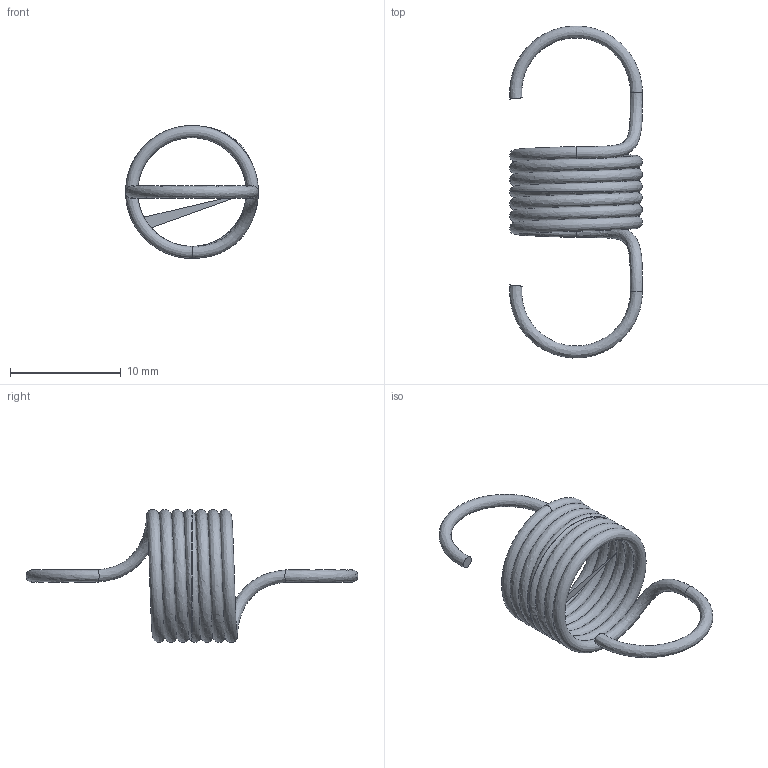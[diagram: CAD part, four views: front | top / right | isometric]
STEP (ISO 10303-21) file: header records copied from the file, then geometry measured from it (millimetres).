
FILE_DESCRIPTION(/* description */ ('35.8 | 1 15 | 0'),/* implementation_level */ '2;1');
FILE_NAME(/* name */ 'T11040.step',/* time_stamp */ '2026-10-05T09:52:20+02:00',/* author */ ('impex-ready.pl'),/* organization */ ('T11040'),/* preprocessor_version */ 'ST-DEVELOPER v20.1',/* originating_system */ 'Autodesk Inventor 2026',/* authorisation */ 'stal sprezynowa');
FILE_SCHEMA (('AUTOMOTIVE_DESIGN { 1 0 10303 214 3 1 1 }'));
Length unit declared in the file: millimetre
Products named in the file (1): T11040
Bounding box: 12 x 29.98 x 12 mm (x, y, z)
Volume: 265.8 mm3; surface area: 968.6 mm2
Topology: 1 solids, 1 shells, 10 faces, 32 edges, 20 vertices
Faces by surface type: bspline 6, plane 4
Entity records: 2174 total; most frequent: CARTESIAN_POINT 1886, ORIENTED_EDGE 64, DIRECTION 34, EDGE_CURVE 32, B_SPLINE_CURVE_WITH_KNOTS 20, VERTEX_POINT 20, AXIS2_PLACEMENT_3D 17, CIRCLE 12
